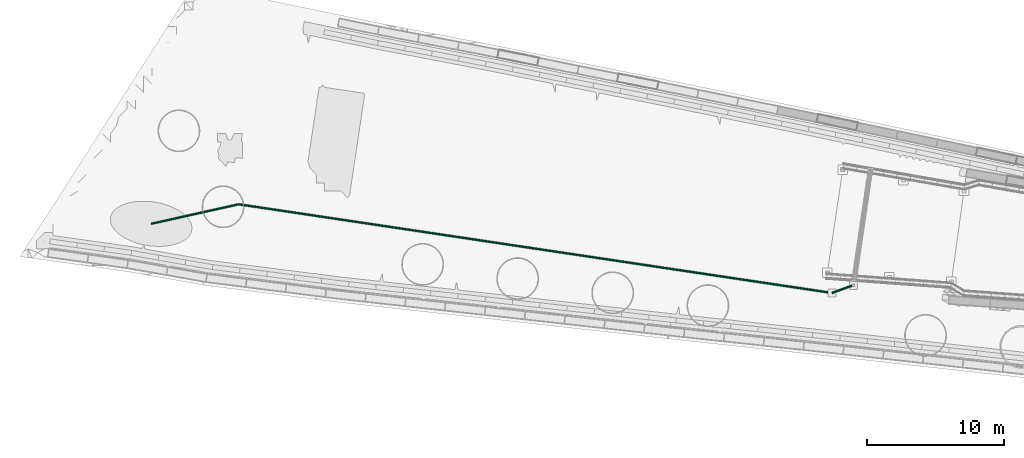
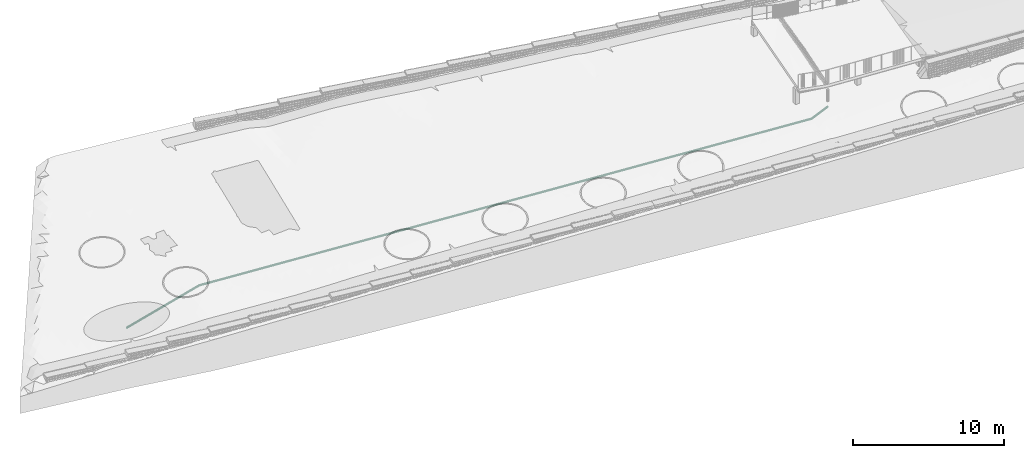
# Not in any storey, part 10 of 45: 3 pipe segments.
"""IFC4 model written with IfcOpenShell, lengths in metres."""

from ifc_helpers import new_model, si_unit, direction, frame, origin_with_axes, place, context, subcontext, project, spatial, circle, extrude, material, material_profile, profile_set, profile_usage, type_object, element, save


model = new_model("IFC4")

# Units and contexts
model_context = context("Model", 3, precision=1e-05, world=origin_with_axes(), true_north=direction((0.0, 1.0)))
body_context = subcontext(model_context, "Body", "Model", "MODEL_VIEW")
ifc_project = project(units=[si_unit("VOLUMEUNIT", "CUBIC_METRE"), si_unit("LENGTHUNIT", "METRE"), si_unit("AREAUNIT", "SQUARE_METRE")], contexts=[model_context])

# Site
site_placement = place(None, origin_with_axes())
site = spatial("IfcSite", under=ifc_project, at=site_placement, Name="Lares · Rua das Mercês · artigo 4771")

# Pipe segments
ifc_material = material(Name="Caleiras · betão", Category="concrete")
ifc_material_profile = material_profile(ifc_material, circle(Radius=0.08))
ifc_profile_set = profile_set([ifc_material_profile], Name="D0.16")
ifc_profile_usage_1 = profile_usage(ifc_profile_set)
pipe_segment_type = type_object("IfcPipeSegmentType", Name="D0.16 / drain", PredefinedType="NOTDEFINED", material=ifc_profile_set)
pipe_segment_1_placement = place(site_placement, frame((48.6078367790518, 2.79748059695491, 13.8852919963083), z_axis=(-0.938633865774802, -0.340910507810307, -0.0524069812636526), x_axis=(-0.341379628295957, 0.939925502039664, 0.0)))
element("IfcPipeSegment", 1, at=pipe_segment_1_placement, inside=site, type_object=pipe_segment_type, material=ifc_profile_usage_1, Name="Acesso · coletor separado da cisterna", context=body_context, shape_type="SweptSolid", body=[
    extrude(circle(Radius=0.08), origin_with_axes(), (0.0, 0.0, 1.0), 1.66178896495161),
])
ifc_profile_usage_2 = profile_usage(ifc_profile_set)
pipe_segment_2_placement = place(site_placement, frame((47.0480253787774, 2.23095927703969, 13.798202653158), z_axis=(-0.987656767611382, 0.147606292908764, -0.0524069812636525), x_axis=(0.147809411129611, 0.989015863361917, 0.0)))
element("IfcPipeSegment", 2, at=pipe_segment_2_placement, inside=site, type_object=pipe_segment_type, material=ifc_profile_usage_2, Name="Acesso · coletor separado da cisterna", context=body_context, shape_type="SweptSolid", body=[
    extrude(circle(Radius=0.08), origin_with_axes(), (0.0, 0.0, 1.0), 43.7601347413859),
])
ifc_profile_usage_3 = profile_usage(ifc_profile_set)
pipe_segment_3_placement = place(site_placement, frame((3.82803214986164, 8.69023054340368, 11.5048660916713), z_axis=(-0.974693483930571, -0.21731571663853, -0.0524069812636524), x_axis=(-0.217614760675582, 0.976034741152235, 0.0)))
element("IfcPipeSegment", 3, at=pipe_segment_3_placement, inside=site, type_object=pipe_segment_type, material=ifc_profile_usage_3, Name="Acesso · coletor separado da cisterna", context=body_context, shape_type="SweptSolid", body=[
    extrude(circle(Radius=0.08), origin_with_axes(), (0.0, 0.0, 1.0), 6.54600547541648),
])

save(model, "model.ifc")
